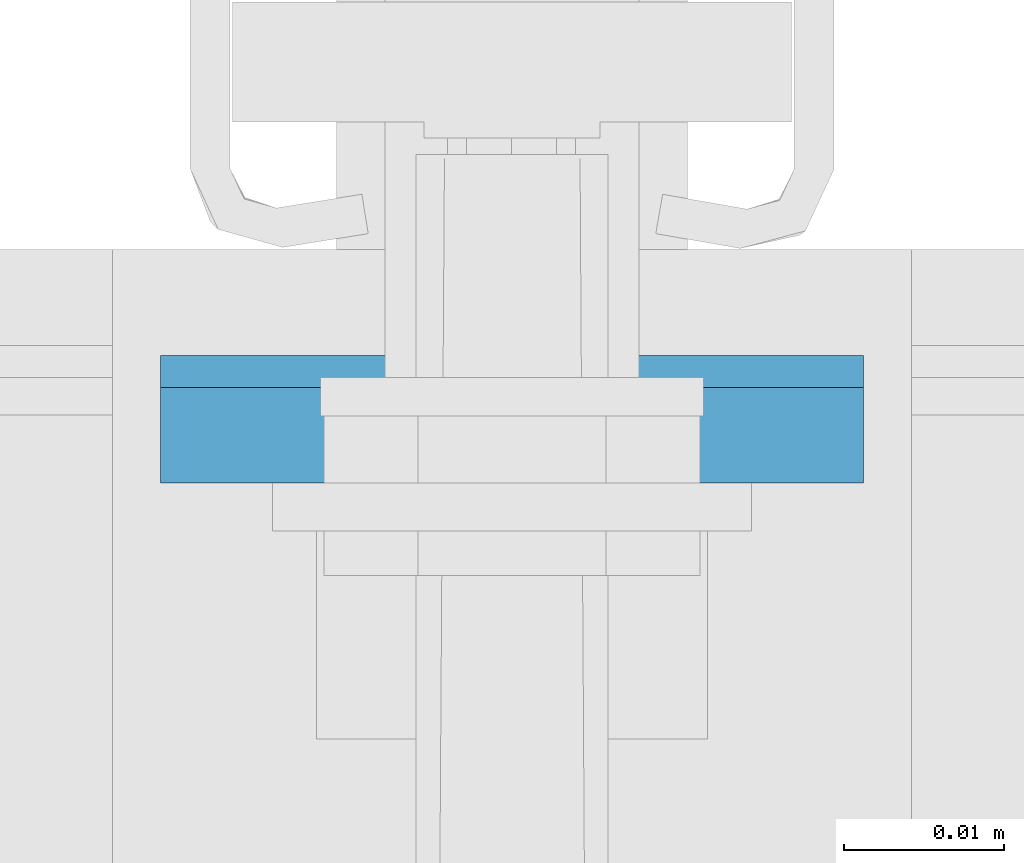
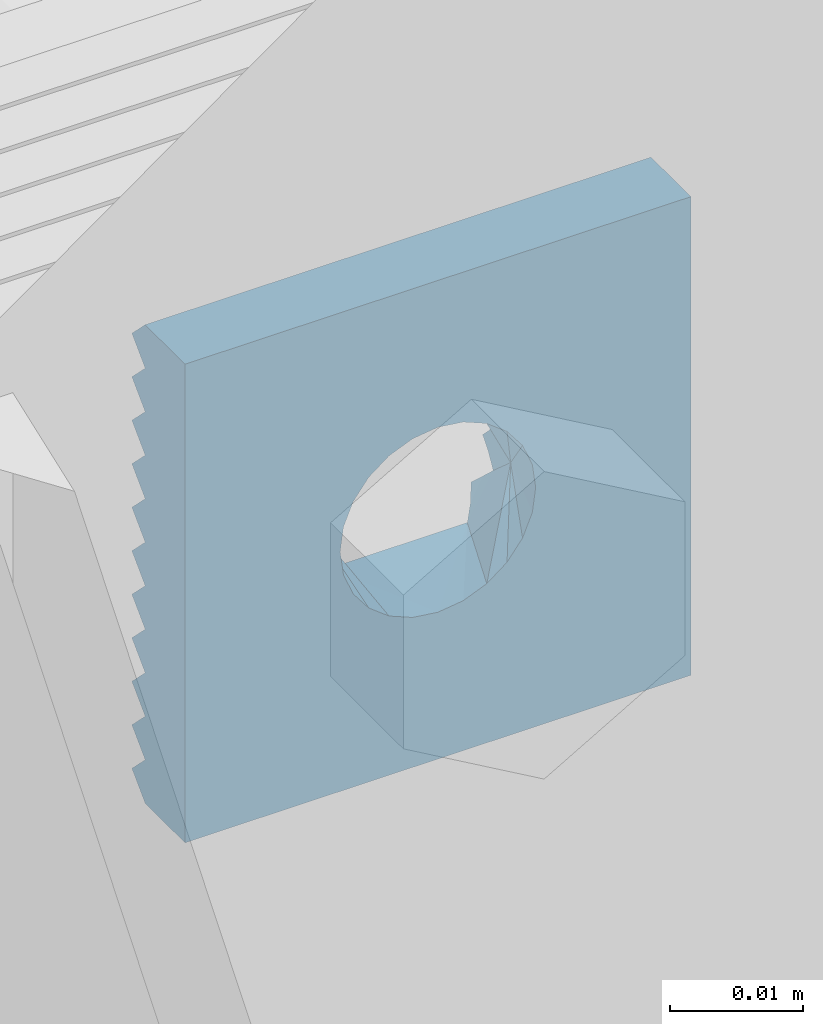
# One storey, part 6 of 7: 1 assembly.
"""IFC2X3 building model written with IfcOpenShell, lengths in metres."""

from ifc_helpers import new_model, entity, si_unit, converted_unit, derived_unit, direction, frame, origin, place, context, subcontext, project, spatial, faceted_brep, source, transform, mapped, material, type_object, type_shapes, element, save


model = new_model("IFC2X3")

# Units and contexts
model_context = context("Model", 3, precision=1e-05, world=origin(), true_north=direction((6.123031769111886e-17, 1.0)))
body_context = subcontext(model_context, "Body", "Model", "MODEL_VIEW")
ifc_project = project(units=[si_unit("LENGTHUNIT", "METRE"), si_unit("AREAUNIT", "SQUARE_METRE"), converted_unit("PLANEANGLEUNIT", "DEGREE", entity("IfcPlaneAngleMeasure", 0.017453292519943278), si_unit("PLANEANGLEUNIT", "RADIAN"), dimensions=[0, 0, 0, 0, 0, 0, 0]), si_unit("VOLUMEUNIT", "CUBIC_METRE"), derived_unit("THERMALTRANSMITTANCEUNIT", [(si_unit("MASSUNIT", "GRAM", prefix="KILO"), 1), (si_unit("THERMODYNAMICTEMPERATUREUNIT", "KELVIN"), -1), (si_unit("TIMEUNIT", "SECOND"), -3)]), derived_unit("USERDEFINED", [(si_unit("MASSUNIT", "GRAM", prefix="KILO"), 1), (si_unit("THERMODYNAMICTEMPERATUREUNIT", "KELVIN"), -1), (si_unit("TIMEUNIT", "SECOND"), -2)]), derived_unit("THERMALRESISTANCEUNIT", [(si_unit("MASSUNIT", "GRAM", prefix="KILO"), -1), (si_unit("TIMEUNIT", "SECOND"), 3), (si_unit("THERMODYNAMICTEMPERATUREUNIT", "KELVIN"), 1)]), derived_unit("MASSDENSITYUNIT", [(si_unit("MASSUNIT", "GRAM", prefix="KILO"), 1), (si_unit("LENGTHUNIT", "METRE"), -3)]), derived_unit("VAPORPERMEABILITYUNIT", [(si_unit("LENGTHUNIT", "METRE"), -1), (si_unit("TIMEUNIT", "SECOND"), 1)]), derived_unit("USERDEFINED", [(si_unit("MASSUNIT", "GRAM", prefix="KILO"), 1), (si_unit("TIMEUNIT", "SECOND"), -3), (si_unit("LENGTHUNIT", "METRE"), 3), (si_unit("ELECTRICCURRENTUNIT", "AMPERE"), -2)]), si_unit("PRESSUREUNIT", "PASCAL")], contexts=[model_context])

# Site, building, storey
site_placement = place(None, origin())
site = spatial("IfcSite", under=ifc_project, at=site_placement, Name="Default", CompositionType="ELEMENT")
building_placement = place(site_placement, origin())
building = spatial("IfcBuilding", under=site, at=building_placement, CompositionType="ELEMENT")
storey_placement = place(building_placement, origin())
storey = spatial("IfcBuildingStorey", under=building, at=storey_placement, Name="L0", CompositionType="ELEMENT", Elevation=0.0)

# Assembly
ifc_material = material(Name="REC_Acero, S 275JR (Zincado)")
type_product = type_object("IfcTypeProduct", Name="REC-CPA448T17:CPA448T17", material=ifc_material)
shared_shape = source(origin(), body_context, "Body", "Brep", [
    faceted_brep([(-0.022000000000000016, 0.0059999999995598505, 0.001999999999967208), (-0.006020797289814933, 0.00599999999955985, 0.0019999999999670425), (-0.006833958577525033, 0.0050544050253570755, 0.0010544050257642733), (-0.007500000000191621, 0.003999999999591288, 0.0), (-0.022000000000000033, 0.003999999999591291, 0.0), (0.00750000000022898, 0.003999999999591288, 0.0), (0.00683395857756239, 0.005054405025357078, 0.0010544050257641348), (0.006020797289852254, 0.005999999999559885, 0.00199999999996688), (0.02199999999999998, 0.0059999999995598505, 0.0019999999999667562), (0.02199999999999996, 0.003999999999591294, 0.0), (-0.007943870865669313, 0.0030240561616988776, 0.0009759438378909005), (-0.008261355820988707, 0.0019999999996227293, 0.0019999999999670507), (-0.02200000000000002, 0.0019999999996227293, 0.001999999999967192), (0.008261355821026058, 0.0019999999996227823, 0.0019999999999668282), (0.00794387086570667, 0.0030240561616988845, 0.0009759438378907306), (0.02199999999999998, 0.001999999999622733, 0.0019999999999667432), (-0.022000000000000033, -0.008000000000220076, 0.0), (-0.022000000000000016, -0.006000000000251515, 0.001999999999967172), (-0.006020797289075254, -0.006000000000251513, 0.00199999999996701), (-0.004557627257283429, -0.007174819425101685, 0.0008251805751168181), (-0.0028722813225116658, -0.008000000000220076, 0.0), (0.006020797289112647, -0.006000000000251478, 0.001999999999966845), (0.02199999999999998, -0.006000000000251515, 0.001999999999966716), (0.02199999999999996, -0.008000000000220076, 0.0), (0.0028722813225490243, -0.008000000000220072, 0.0), (0.004557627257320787, -0.007174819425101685, 0.0008251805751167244), (-0.022000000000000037, -0.004000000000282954, 0.0), (-0.007499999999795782, -0.00400000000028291, 0.0), (-0.006833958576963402, -0.005054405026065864, 0.0010544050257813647), (0.007499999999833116, -0.004000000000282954, 0.0), (0.02199999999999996, -0.004000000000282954, 0.0), (0.0068339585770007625, -0.005054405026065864, 0.0010544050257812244), (-0.022000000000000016, -0.002000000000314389, 0.001999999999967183), (-0.008261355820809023, -0.002000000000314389, 0.001999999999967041), (-0.007943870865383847, -0.003024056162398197, 0.0009759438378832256), (0.008261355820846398, -0.002000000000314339, 0.0019999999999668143), (0.02199999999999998, -0.002000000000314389, 0.0019999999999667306), (0.007943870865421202, -0.003024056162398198, 0.0009759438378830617), (-0.022000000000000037, 0.0, 0.0), (-0.008499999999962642, 0.0, 0.0), (-0.008440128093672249, -0.001007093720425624, 0.0010070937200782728), (0.008440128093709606, -0.001007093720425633, 0.0010070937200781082), (0.008500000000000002, 0.0, 0.0), (0.02199999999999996, 0.0, 0.0), (-0.008440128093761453, 0.0010070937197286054, 0.0010070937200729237), (0.00844012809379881, 0.0010070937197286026, 0.0010070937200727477), (-0.022000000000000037, 0.007999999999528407, 0.0), (-0.0028722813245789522, 0.007999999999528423, 0.0), (-0.0045576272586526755, 0.007174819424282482, 0.0008251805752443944), (0.004557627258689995, 0.007174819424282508, 0.0008251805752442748), (0.0028722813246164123, 0.007999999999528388, 0.0), (0.02199999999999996, 0.007999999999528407, 0.0), (0.02199999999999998, 0.009999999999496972, 0.0019999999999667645), (0.02199999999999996, 0.01199999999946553, 0.0), (0.02199999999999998, 0.013999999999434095, 0.0019999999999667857), (0.02199999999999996, 0.015999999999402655, 0.0), (0.02199999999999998, 0.017999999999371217, 0.0019999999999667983), (0.02199999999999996, 0.019999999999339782, 0.0), (0.02199999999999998, 0.022000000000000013, 0.002000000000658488), (0.022000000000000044, 0.022000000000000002, 0.007999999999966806), (0.022000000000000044, -0.022000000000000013, 0.007999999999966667), (0.02199999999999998, -0.022000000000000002, 0.0019999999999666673), (0.02199999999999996, -0.02000000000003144, 0.0), (0.02199999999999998, -0.018000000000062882, 0.001999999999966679), (0.02199999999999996, -0.01600000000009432, 0.0), (0.02199999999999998, -0.014000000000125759, 0.0019999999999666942), (0.02199999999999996, -0.012000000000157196, 0.0), (0.02199999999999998, -0.010000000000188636, 0.0019999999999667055), (-0.022000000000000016, -0.022000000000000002, 0.0019999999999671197), (-0.021999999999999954, -0.022000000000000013, 0.00799999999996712), (-0.021999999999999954, 0.022000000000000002, 0.007999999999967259), (-0.022000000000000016, 0.022000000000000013, 0.0020000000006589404), (-0.022000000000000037, 0.019999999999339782, 0.0), (-0.022000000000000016, 0.017999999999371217, 0.0019999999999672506), (-0.022000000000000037, 0.015999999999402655, 0.0), (-0.022000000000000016, 0.013999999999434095, 0.0019999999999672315), (-0.022000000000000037, 0.01199999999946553, 0.0), (-0.022000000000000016, 0.009999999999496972, 0.001999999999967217), (-0.022000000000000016, -0.010000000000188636, 0.0019999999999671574), (-0.022000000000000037, -0.012000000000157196, 0.0), (-0.022000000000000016, -0.014000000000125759, 0.001999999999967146), (-0.022000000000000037, -0.01600000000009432, 0.0), (-0.022000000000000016, -0.018000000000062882, 0.0019999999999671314), (-0.022000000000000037, -0.02000000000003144, 0.0), (0.00821036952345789, -0.002199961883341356, 0.007999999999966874), (0.0073612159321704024, -0.004249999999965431, 0.007999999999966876), (0.008500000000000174, 0.0, 0.007999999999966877), (0.006010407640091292, -0.00601040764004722, 0.007999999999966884), (0.0042500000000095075, -0.007361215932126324, 0.007999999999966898), (0.0021999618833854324, -0.00821036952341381, 0.007999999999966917), (0.0, -0.00849999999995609, 0.007999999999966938), (-0.002199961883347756, -0.008210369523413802, 0.00799999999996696), (-0.004249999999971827, -0.007361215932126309, 0.007999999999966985), (-0.006010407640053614, -0.006010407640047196, 0.007999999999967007), (-0.007361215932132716, -0.004249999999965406, 0.007999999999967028), (-0.008210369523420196, -0.002199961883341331, 0.007999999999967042), (-0.008499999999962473, 0.0, 0.007999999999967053), (-0.008210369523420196, 0.0021999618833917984, 0.007999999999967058), (-0.00736121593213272, 0.004250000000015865, 0.007999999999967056), (-0.0060104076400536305, 0.006010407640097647, 0.007999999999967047), (-0.004249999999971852, 0.007361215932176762, 0.007999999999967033), (-0.0021999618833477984, 0.00821036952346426, 0.007999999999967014), (0.0, 0.008500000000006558, 0.007999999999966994), (0.002199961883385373, 0.008210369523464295, 0.00799999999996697), (0.00425000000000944, 0.00736121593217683, 0.007999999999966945), (0.006010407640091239, 0.00601040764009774, 0.007999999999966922), (0.007361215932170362, 0.00425000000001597, 0.007999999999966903), (0.008210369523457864, 0.002199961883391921, 0.007999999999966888), (0.0, 0.008500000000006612, 0.0005000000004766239), (0.0, -0.008499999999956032, 0.000499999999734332), (-0.008499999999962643, 0.0, 0.0010589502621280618), (-0.008499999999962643, 0.0, 0.00423580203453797), (-0.008499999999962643, 0.0, 0.0021179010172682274), (0.008500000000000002, 0.0, 0.001058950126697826), (0.008500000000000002, 0.0, 0.002117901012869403), (0.008500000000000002, 0.0, 0.0042358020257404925)], [[[0, 1, 2, 3, 4]], [[5, 6, 7, 8, 9]], [[4, 3, 10, 11, 12]], [[13, 14, 5, 9, 15]], [[16, 17, 18, 19, 20]], [[21, 22, 23, 24, 25]], [[17, 26, 27, 28, 18]], [[29, 30, 22, 21, 31]], [[26, 32, 33, 34, 27]], [[35, 36, 30, 29, 37]], [[32, 38, 39, 40, 33]], [[41, 42, 43, 36, 35]], [[12, 11, 44, 39, 38]], [[45, 13, 15, 43, 42]], [[46, 47, 48, 1, 0]], [[7, 49, 50, 51, 8]], [[8, 51, 52, 53, 54, 55, 56, 57, 58, 59, 60, 61, 62, 63, 64, 65, 66, 67, 23, 22, 30, 36, 43, 15, 9]], [[68, 69, 70, 71, 72, 73, 74, 75, 76, 77, 46, 0, 4, 12, 38, 32, 26, 17, 16, 78, 79, 80, 81, 82, 83]], [[68, 83, 62, 61]], [[69, 68, 61, 60]], [[84, 85, 60]], [[86, 84, 60]], [[87, 60, 85]], [[60, 87, 88]], [[60, 88, 89]], [[60, 89, 90]], [[90, 69, 60]], [[69, 90, 91]], [[69, 91, 92]], [[69, 92, 93]], [[93, 94, 69]], [[95, 69, 94]], [[69, 95, 96]], [[96, 70, 69]], [[70, 96, 97]], [[70, 97, 98]], [[98, 99, 70]], [[100, 70, 99]], [[70, 100, 101]], [[70, 101, 102]], [[59, 70, 102]], [[102, 103, 59]], [[59, 103, 104]], [[59, 104, 105]], [[59, 105, 106]], [[106, 107, 59]], [[107, 86, 59]], [[60, 59, 86]], [[70, 59, 58, 71]], [[72, 71, 58, 57]], [[73, 72, 57, 56]], [[73, 56, 55, 74]], [[75, 74, 55, 54]], [[76, 75, 54, 53]], [[77, 76, 53, 52]], [[50, 108, 47, 46, 77, 52, 51]], [[24, 23, 67, 78, 16, 20, 109]], [[78, 67, 66, 79]], [[80, 79, 66, 65]], [[80, 65, 64, 81]], [[82, 81, 64, 63]], [[83, 82, 63, 62]], [[3, 2, 10]], [[39, 44, 110]], [[102, 1, 7]], [[10, 2, 11]], [[108, 1, 48]], [[1, 11, 2]], [[98, 97, 111]], [[111, 1, 100]], [[96, 111, 97]], [[1, 111, 11]], [[111, 100, 99]], [[99, 98, 111]], [[101, 100, 1]], [[1, 102, 101]], [[48, 47, 108]], [[108, 50, 49]], [[108, 49, 7]], [[112, 110, 11, 111]], [[11, 110, 44]], [[45, 42, 113]], [[6, 14, 13]], [[113, 114, 115, 13]], [[107, 115, 86]], [[5, 14, 6]], [[115, 105, 104]], [[115, 104, 7]], [[104, 103, 7]], [[103, 102, 7]], [[107, 106, 115]], [[113, 13, 45]], [[115, 106, 105]], [[115, 7, 13]], [[7, 6, 13]], [[7, 1, 108]], [[29, 31, 37]], [[42, 41, 113]], [[90, 21, 18]], [[37, 31, 35]], [[109, 21, 25]], [[21, 35, 31]], [[85, 84, 115]], [[115, 21, 88]], [[86, 115, 84]], [[21, 115, 35]], [[115, 88, 87]], [[87, 85, 115]], [[89, 88, 21]], [[21, 90, 89]], [[25, 24, 109]], [[109, 20, 19]], [[109, 19, 18]], [[110, 112, 111, 33]], [[40, 39, 110]], [[35, 113, 41]], [[28, 34, 33]], [[114, 113, 35, 115]], [[95, 111, 96]], [[27, 34, 28]], [[111, 93, 92]], [[111, 92, 18]], [[92, 91, 18]], [[91, 90, 18]], [[95, 94, 111]], [[110, 33, 40]], [[111, 94, 93]], [[111, 18, 33]], [[18, 28, 33]], [[18, 21, 109]]]),
])
type_shapes(type_product, [shared_shape])
assembly_placement = place(storey_placement, frame((7.287720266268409, 15.947905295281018, 0.07200000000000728), z_axis=(0.0, -1.0, 0.0), x_axis=(1.0, 0.0, 0.0)))
element("IfcElementAssembly", 1, at=assembly_placement, inside=storey, type_object=type_product, material=ifc_material, Name="REC-CPA448T17:CPA448T17", ObjectType="REC-CPA448T17:CPA448T17", AssemblyPlace="NOTDEFINED", PredefinedType="NOTDEFINED", context=body_context, shape_type="MappedRepresentation", body=[
    mapped(shared_shape, transform((0.0, 0.0, 0.0), scale=1.0)),
])

save(model, "model.ifc")
